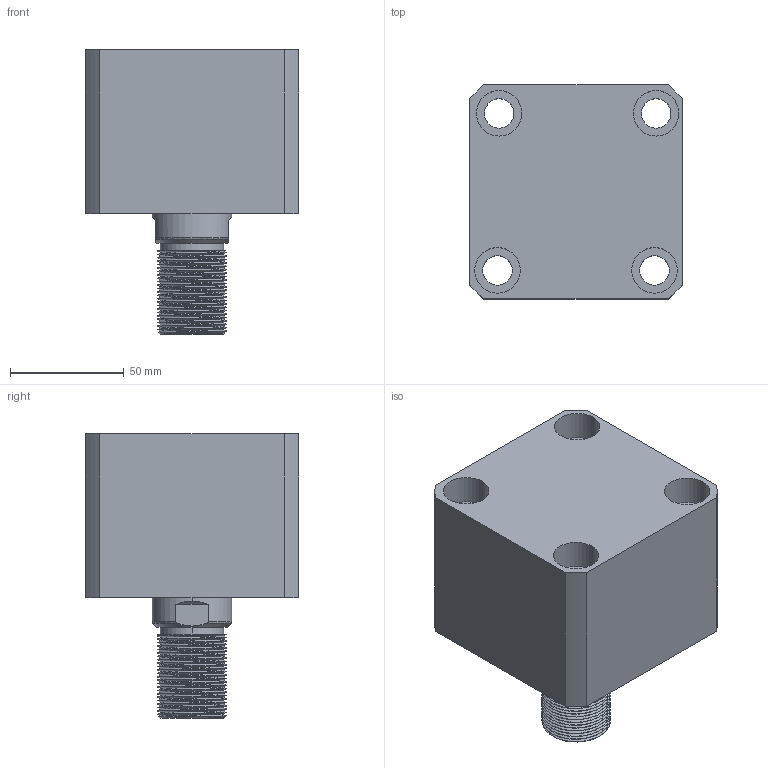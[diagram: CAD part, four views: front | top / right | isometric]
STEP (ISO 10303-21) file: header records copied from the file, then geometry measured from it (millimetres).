
FILE_DESCRIPTION (( 'STEP AP214' ), '1' );
FILE_NAME ('chtb-sdma63x5w_asm.STEP', '2018-05-18T08:59:42', ( 'Windows' ), ( 'Microsoft' ), 'SwSTEP 2.0', 'SolidWorks 2015', '' );
FILE_SCHEMA (( 'AUTOMOTIVE_DESIGN' ));
Length unit declared in the file: millimetre
Products named in the file (4): CHTB-SDMA63X5NBT; CHTB63X5WHSG; CHTB-63QG; chtb-sdma63x5w_asm
Assembly tree (3 placements, depth 2):
  chtb-sdma63x5w_asm
    CHTB-63QG
    CHTB63X5WHSG
    CHTB-SDMA63X5NBT
Bounding box: 94 x 94 x 125 mm (x, y, z)
Volume: 599804.4 mm3; surface area: 112442.9 mm2
Topology: 3 solids, 3 shells, 219 faces, 632 edges, 430 vertices
Faces by surface type: cylinder 156, plane 34, bspline 14, cone 9, torus 6
Entity records: 22297 total; most frequent: CARTESIAN_POINT 17024, ORIENTED_EDGE 1256, DIRECTION 878, EDGE_CURVE 628, VERTEX_POINT 430, AXIS2_PLACEMENT_3D 343, EDGE_LOOP 252, ADVANCED_FACE 219
